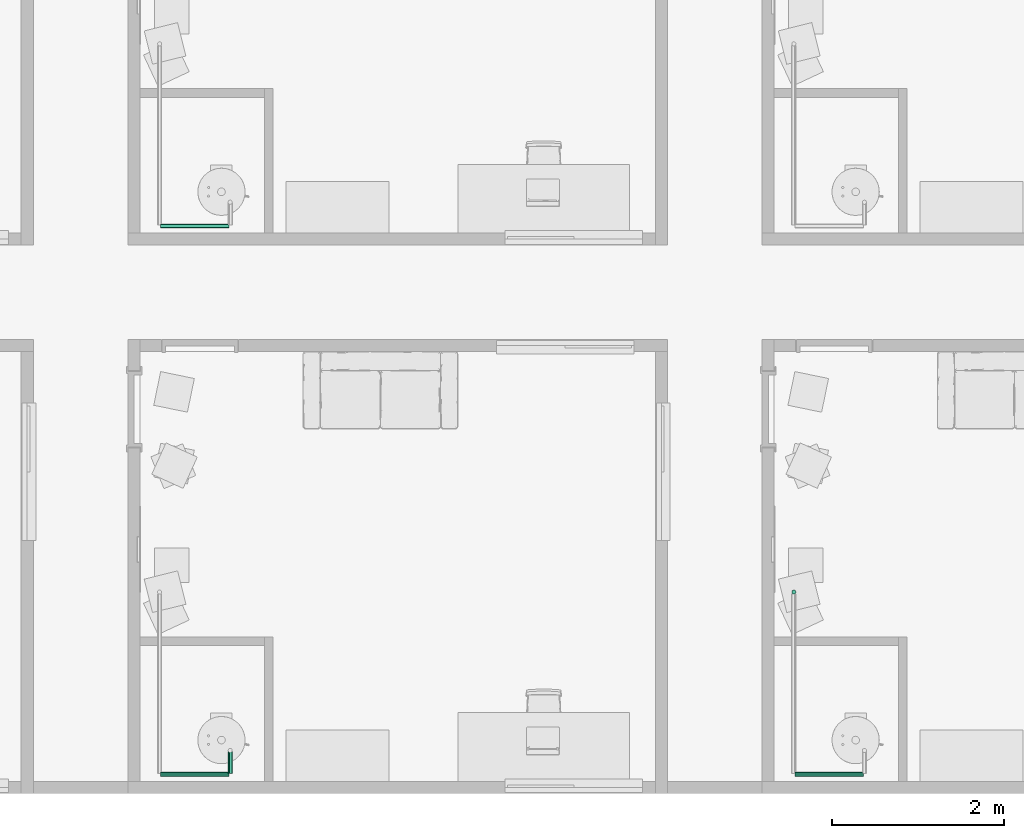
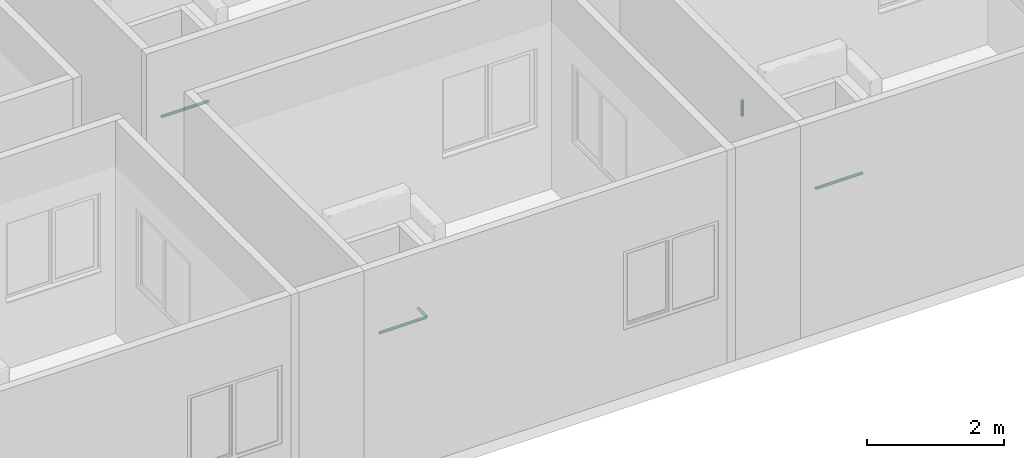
# One storey, part 42 of 71: 5 pipe segments.
"""IFC4 building model written with IfcOpenShell, lengths in centimetres."""

from ifc_helpers import new_model, entity, si_unit, converted_unit, derived_unit, direction, frame, origin, place, context, subcontext, project, spatial, arc, indexed_curve, outline, extrude, type_object, element, save


model = new_model("IFC4")

# Units and contexts
model_context = context("Model", 3, precision=0.001, world=origin(), true_north=direction((6.123233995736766e-17, 1.0)))
body_context = subcontext(model_context, "Body", "Model", "MODEL_VIEW")
ifc_project = project(units=[si_unit("LENGTHUNIT", "METRE", prefix="CENTI"), si_unit("AREAUNIT", "SQUARE_METRE"), si_unit("VOLUMEUNIT", "CUBIC_METRE"), derived_unit("THERMALTRANSMITTANCEUNIT", [(si_unit("MASSUNIT", "GRAM", prefix="KILO"), 1), (si_unit("THERMODYNAMICTEMPERATUREUNIT", "KELVIN"), -1), (si_unit("TIMEUNIT", "SECOND"), -3)]), converted_unit("PLANEANGLEUNIT", "DEGREE", entity("IfcPlaneAngleMeasure", 0.017453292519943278), si_unit("PLANEANGLEUNIT", "RADIAN"), dimensions=[0, 0, 0, 0, 0, 0, 0]), derived_unit("MASSDENSITYUNIT", [(si_unit("MASSUNIT", "GRAM", prefix="KILO"), 1), (si_unit("LENGTHUNIT", "METRE"), -3)]), derived_unit("VAPORPERMEABILITYUNIT", [(si_unit("LENGTHUNIT", "METRE"), -1), (si_unit("TIMEUNIT", "SECOND"), 1)]), derived_unit("USERDEFINED", [(si_unit("MASSUNIT", "GRAM", prefix="KILO"), 1), (si_unit("TIMEUNIT", "SECOND"), -3), (si_unit("LENGTHUNIT", "METRE"), 3), (si_unit("ELECTRICCURRENTUNIT", "AMPERE"), -2)]), derived_unit("SPECIFICHEATCAPACITYUNIT", [(si_unit("THERMODYNAMICTEMPERATUREUNIT", "KELVIN"), -1), (si_unit("LENGTHUNIT", "METRE"), 2), (si_unit("TIMEUNIT", "SECOND"), -2)]), derived_unit("THERMALCONDUCTANCEUNIT", [(si_unit("MASSUNIT", "GRAM", prefix="KILO"), 1), (si_unit("THERMODYNAMICTEMPERATUREUNIT", "KELVIN"), -1), (si_unit("TIMEUNIT", "SECOND"), -3), (si_unit("LENGTHUNIT", "METRE"), 1)]), si_unit("PRESSUREUNIT", "PASCAL"), derived_unit("MODULUSOFELASTICITYUNIT", [(si_unit("MASSUNIT", "GRAM", prefix="KILO"), 1), (si_unit("LENGTHUNIT", "METRE"), -1), (si_unit("TIMEUNIT", "SECOND"), -2)]), derived_unit("THERMALEXPANSIONCOEFFICIENTUNIT", [(si_unit("THERMODYNAMICTEMPERATUREUNIT", "KELVIN"), -1)])], contexts=[model_context])

# Site, building, storey
site_placement = place(None, origin())
site = spatial("IfcSite", under=ifc_project, at=site_placement, Name="Default", CompositionType="ELEMENT")
building_placement = place(site_placement, origin())
building = spatial("IfcBuilding", under=site, at=building_placement, Name="IDS Escape Game Building", CompositionType="ELEMENT")
storey_placement = place(building_placement, frame((0.0, 0.0, 1200.0)))
storey = spatial("IfcBuildingStorey", under=building, at=storey_placement, Name="03_Third Floor", CompositionType="ELEMENT", Elevation=1200.0)

# Pipe segments
pipe_segment_type = type_object("IfcPipeSegmentType", Name="Pipe Types:Piping Aluminum", PredefinedType="NOTDEFINED")
pipe_segment_1_placement = place(storey_placement, origin())
element("IfcPipeSegment", 1, at=pipe_segment_1_placement, inside=storey, type_object=pipe_segment_type, Name="Pipe Types:Piping Aluminum", ObjectType="Pipe Types:Piping Aluminum", PredefinedType="NOTDEFINED", context=body_context, shape_type="SweptSolid", body=[
    extrude(outline(indexed_curve([(2.412999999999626, -2.165734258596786e-13), (1.7062486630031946, 1.7062486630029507), (3.790034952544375e-13, 2.4130000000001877), (-1.7062486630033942, 1.706248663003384), (-2.4130000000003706, -2.165734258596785e-13), (-1.70624866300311, -1.706248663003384), (3.654676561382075e-13, -2.4129999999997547), (1.7062486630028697, -1.7062486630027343)], segments=[arc(1, 2, 3), arc(3, 4, 5), arc(5, 6, 7), arc(7, 8, 1)], self_intersect=False)), frame((1507.1467168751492, 21.264827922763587, 242.0), z_axis=(1.0, 0.0, 0.0), x_axis=(0.0, 1.0, 0.0)), (0.0, 0.0, 1.0), 79.90328312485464),
])
pipe_segment_2_placement = place(storey_placement, origin())
element("IfcPipeSegment", 2, at=pipe_segment_2_placement, inside=storey, type_object=pipe_segment_type, Name="Pipe Types:Piping Aluminum", ObjectType="Pipe Types:Piping Aluminum", PredefinedType="NOTDEFINED", context=body_context, shape_type="SweptSolid", body=[
    extrude(outline(indexed_curve([(2.4129999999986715, 0.0), (1.7062486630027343, 1.706248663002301), (1.2994405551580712e-12, 2.412999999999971), (-1.7062486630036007, 1.7062486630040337), (-2.413000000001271, 0.0), (-1.7062486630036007, -1.7062486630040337), (1.2994405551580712e-12, -2.412999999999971), (1.7062486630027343, -1.706248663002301)], segments=[arc(1, 2, 3), arc(3, 4, 5), arc(5, 6, 7), arc(7, 8, 1)], self_intersect=False)), frame((1588.1500000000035, 22.364827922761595, 242.0), z_axis=(0.0, 1.0, 0.0), x_axis=(-1.0, 0.0, 0.0)), (0.0, 0.0, 1.0), 25.435172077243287),
])
pipe_segment_3_placement = place(storey_placement, origin())
element("IfcPipeSegment", 3, at=pipe_segment_3_placement, inside=storey, type_object=pipe_segment_type, Name="Pipe Types:Piping Aluminum", ObjectType="Pipe Types:Piping Aluminum", PredefinedType="NOTDEFINED", context=body_context, shape_type="SweptSolid", body=[
    extrude(outline(indexed_curve([(2.412999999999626, -2.165734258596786e-13), (1.7062486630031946, 1.7062486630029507), (3.790034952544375e-13, 2.4130000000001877), (-1.7062486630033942, 1.706248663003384), (-2.4130000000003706, -2.165734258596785e-13), (-1.70624866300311, -1.706248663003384), (3.654676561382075e-13, -2.4129999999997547), (1.7062486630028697, -1.7062486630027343)], segments=[arc(1, 2, 3), arc(3, 4, 5), arc(5, 6, 7), arc(7, 8, 1)], self_intersect=False)), frame((2245.1467168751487, 21.264827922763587, 242.0), z_axis=(1.0, 0.0, 0.0), x_axis=(0.0, 1.0, 0.0)), (0.0, 0.0, 1.0), 79.90328312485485),
])
pipe_segment_4_placement = place(storey_placement, origin())
element("IfcPipeSegment", 4, at=pipe_segment_4_placement, inside=storey, type_object=pipe_segment_type, Name="Pipe Types:Piping Aluminum", ObjectType="Pipe Types:Piping Aluminum", PredefinedType="NOTDEFINED", context=body_context, shape_type="SweptSolid", body=[
    extrude(outline(indexed_curve([(2.412999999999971, -2.7071678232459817e-14), (1.7062486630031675, 1.7062486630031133), (0.0, 2.412999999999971), (-1.7062486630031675, 1.7062486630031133), (-2.412999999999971, 0.0), (-1.7062486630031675, -1.7062486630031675), (0.0, -2.413000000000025), (1.7062486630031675, -1.7062486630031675)], segments=[arc(1, 2, 3), arc(3, 4, 5), arc(5, 6, 7), arc(7, 8, 1)], self_intersect=False)), frame((2244.046716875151, 233.26482792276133, 244.09999999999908), z_axis=(0.0, 0.0, 1.0), x_axis=(-1.0, 0.0, 0.0)), (0.0, 0.0, 1.0), 27.90000000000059),
])
pipe_segment_5_placement = place(storey_placement, origin())
element("IfcPipeSegment", 5, at=pipe_segment_5_placement, inside=storey, type_object=pipe_segment_type, Name="Pipe Types:Piping Aluminum", ObjectType="Pipe Types:Piping Aluminum", PredefinedType="NOTDEFINED", context=body_context, shape_type="SweptSolid", body=[
    extrude(outline(indexed_curve([(2.4129999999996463, -2.165734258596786e-13), (1.7062486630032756, 1.7062486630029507), (4.331468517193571e-13, 2.4130000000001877), (-1.706248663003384, 1.706248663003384), (-2.413000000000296, -2.165734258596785e-13), (-1.706248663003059, -1.706248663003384), (4.3314685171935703e-13, -2.4129999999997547), (1.7062486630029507, -1.7062486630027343)], segments=[arc(1, 2, 3), arc(3, 4, 5), arc(5, 6, 7), arc(7, 8, 1)], self_intersect=False)), frame((1507.1467168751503, 659.2648279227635, 242.0), z_axis=(1.0, 0.0, 0.0), x_axis=(0.0, 1.0, 0.0)), (0.0, 0.0, 1.0), 79.90328312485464),
])

save(model, "model.ifc")
